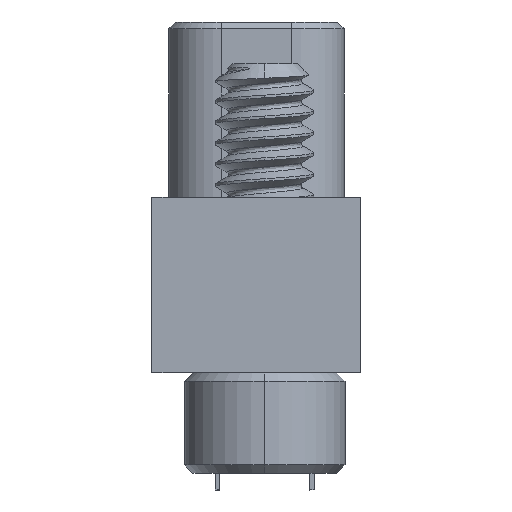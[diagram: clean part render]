
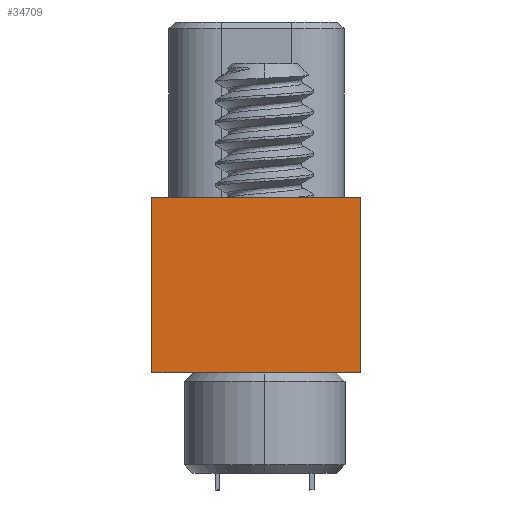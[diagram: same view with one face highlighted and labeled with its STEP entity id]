
A CAD part, left-side view. The second image highlights one B-rep face of the part: STEP entity #34709.
In plain terms, the highlighted planar face has unit normal (-1, 0, 0).
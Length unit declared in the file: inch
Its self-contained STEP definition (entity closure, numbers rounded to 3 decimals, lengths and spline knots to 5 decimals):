
#2435 = CARTESIAN_POINT ( 'NONE',  ( -0.5375, 0.0675, 0.105 ) ) ;
#4982 = VERTEX_POINT ( 'NONE', #29626 ) ;
#5280 = LINE ( 'NONE', #36201, #23607 ) ;
#5295 = DIRECTION ( 'NONE',  ( 0., 0., -1. ) ) ;
#6850 = DIRECTION ( 'NONE',  ( 0., -1., 0. ) ) ;
#7563 = LINE ( 'NONE', #20009, #44433 ) ;
#9333 = VECTOR ( 'NONE', #34549, 39.37008 ) ;
#9373 = LINE ( 'NONE', #13287, #9333 ) ;
#11071 = EDGE_CURVE ( 'NONE', #42358, #14971, #9373, .T. ) ;
#11610 = LINE ( 'NONE', #2435, #23606 ) ;
#12487 = CARTESIAN_POINT ( 'NONE',  ( -0.5375, -0.0575, 0. ) ) ;
#13287 = CARTESIAN_POINT ( 'NONE',  ( -0.5375, -0.0575, -0.105 ) ) ;
#14971 = VERTEX_POINT ( 'NONE', #40227 ) ;
#15888 = DIRECTION ( 'NONE',  ( 0., 0., -1. ) ) ;
#16501 = EDGE_CURVE ( 'NONE', #4982, #42358, #11610, .T. ) ;
#18442 = ORIENTED_EDGE ( 'NONE', *, *, #51796, .F. ) ;
#19017 = EDGE_LOOP ( 'NONE', ( #31734, #54691, #31452, #18442 ) ) ;
#20009 = CARTESIAN_POINT ( 'NONE',  ( -0.5375, -0.0575, 0.105 ) ) ;
#23606 = VECTOR ( 'NONE', #32079, 39.37008 ) ;
#23607 = VECTOR ( 'NONE', #6850, 39.37008 ) ;
#27151 = VERTEX_POINT ( 'NONE', #12487 ) ;
#29626 = CARTESIAN_POINT ( 'NONE',  ( -0.5375, 0.0675, 0. ) ) ;
#30487 = CARTESIAN_POINT ( 'NONE',  ( -0.5375, -0.0575, 0.105 ) ) ;
#30775 = AXIS2_PLACEMENT_3D ( 'NONE', #30487, #47217, #5295 ) ;
#31452 = ORIENTED_EDGE ( 'NONE', *, *, #11071, .T. ) ;
#31734 = ORIENTED_EDGE ( 'NONE', *, *, #40586, .F. ) ;
#32079 = DIRECTION ( 'NONE',  ( 0., 0., -1. ) ) ;
#34549 = DIRECTION ( 'NONE',  ( 0., -1., 0. ) ) ;
#34709 = ADVANCED_FACE ( 'NONE', ( #41385 ), #45287, .F. ) ;
#36201 = CARTESIAN_POINT ( 'NONE',  ( -0.5375, -0.0575, 0. ) ) ;
#40227 = CARTESIAN_POINT ( 'NONE',  ( -0.5375, -0.0575, -0.105 ) ) ;
#40586 = EDGE_CURVE ( 'NONE', #4982, #27151, #5280, .T. ) ;
#41385 = FACE_OUTER_BOUND ( 'NONE', #19017, .T. ) ;
#42358 = VERTEX_POINT ( 'NONE', #46491 ) ;
#44433 = VECTOR ( 'NONE', #15888, 39.37008 ) ;
#45287 = PLANE ( 'NONE',  #30775 ) ;
#46491 = CARTESIAN_POINT ( 'NONE',  ( -0.5375, 0.0675, -0.105 ) ) ;
#47217 = DIRECTION ( 'NONE',  ( 1., 0., 0. ) ) ;
#51796 = EDGE_CURVE ( 'NONE', #27151, #14971, #7563, .T. ) ;
#54691 = ORIENTED_EDGE ( 'NONE', *, *, #16501, .T. ) ;
